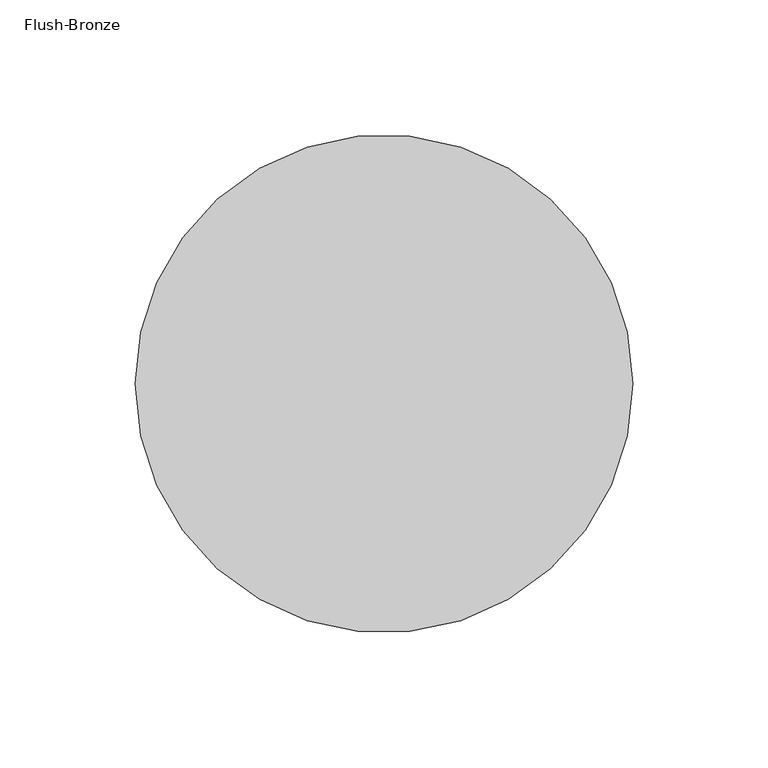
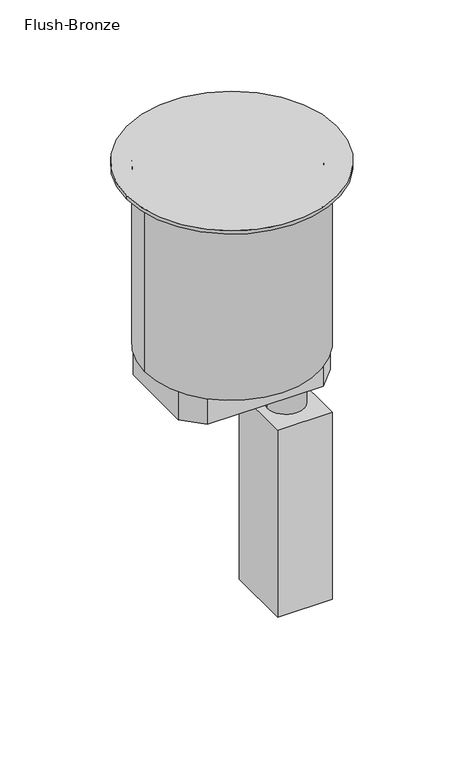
"""IFC4 building model written with IfcOpenShell, lengths in millimetres: proxy geometry, Poke_Thru-Evolution_6AT_Series-Wiremold-Prewired_Audio_Video : Flush-Bronze."""

from ifc_helpers import new_model, si_unit, point, frame, frame_2d, origin, origin_with_axes, origin_2d, place, context, project, spatial, polyline, circle_curve, trimmed, segment, composite_curve, outline, extrude, source, transform, mapped, element, save
from ifc_brep_helpers import plane_surface, cylinder_surface, revolved_surface, advanced_brep


def flush_bronze_f38398a0(model_context):
    return source(origin(), model_context, "Body", "SolidModel", [
        extrude(outline(polyline([(-21.8163935, 61.9125), (22.0523137, 61.9125), (27.78125, 56.9197167), (27.78125, -56.9197167), (22.0523137, -61.9125), (-21.8163935, -61.9125), (-27.78125, -56.9197167), (-27.78125, 56.9197167), (-21.8163935, 61.9125)])), frame((0.0, 0.0, -6.35), z_axis=(0.0, 0.0, 1.0), x_axis=(1.0, 0.0, 0.0)), (0.0, 0.0, 1.0), 3.175),
        extrude(outline(composite_curve([segment(polyline([(56.4048196, -38.1), (27.8003, -38.1), (27.8003, 38.1), (56.4048196, 38.1)]), True, "CONTINUOUS"), segment(trimmed(circle_curve(frame_2d((7.1886716, 0.0)), 62.2401737), [point((56.4048196, 38.1))], [point((56.4048196, -38.1))], False, "CARTESIAN"), True, "CONTINUOUS")], self_intersect=False)), frame((0.0, 0.0, -6.35), z_axis=(0.0, 0.0, 1.0), x_axis=(1.0, 0.0, 0.0)), (0.0, 0.0, 1.0), 3.175),
        extrude(outline(composite_curve([segment(polyline([(-56.4048196, 38.1), (-27.8003, 38.1), (-27.8003, -38.1), (-56.4048196, -38.1)]), True, "CONTINUOUS"), segment(trimmed(circle_curve(frame_2d((-7.1886716, 0.0)), 62.2401737), [point((-56.4048196, -38.1))], [point((-56.4048196, 38.1))], False, "CARTESIAN"), True, "CONTINUOUS")], self_intersect=False)), frame((0.0, 0.0, -6.35), z_axis=(0.0, 0.0, 1.0), x_axis=(1.0, 0.0, 0.0)), (0.0, 0.0, 1.0), 3.175),
        extrude(outline(composite_curve([segment(trimmed(circle_curve(origin_2d(), 92.075), [point((-92.075, 0.0))], [point((92.075, 0.0))], False, "CARTESIAN"), True, "CONTINUOUS"), segment(trimmed(circle_curve(origin_2d(), 92.075), [point((92.075, 0.0))], [point((-92.075, 0.0))], False, "CARTESIAN"), True, "CONTINUOUS")], self_intersect=False)), origin_with_axes(), (0.0, 0.0, 1.0), 3.175),
        advanced_brep(
        [(69.85, 0.0, -6.35), (-69.85, 0.0, -6.35), (-76.2, 0.0, -165.1), (76.2, 0.0, -165.1), (76.2, 0.0, -6.35), (-76.2, 0.0, -6.35), (-76.2, 0.0, 0.0), (76.2, 0.0, 0.0), (-69.85, 0.0, 0.0), (69.85, 0.0, 0.0)],
        [
            (0, 1, circle_curve(frame((0.0, 0.0, -6.35), z_axis=(0.0, 0.0, 1.0), x_axis=(1.0, 0.0, 0.0)), 69.85)),
            (1, 0, circle_curve(frame((0.0, 0.0, -6.35), z_axis=(0.0, 0.0, 1.0), x_axis=(1.0, 0.0, 0.0)), 69.85)),
            (2, 3, circle_curve(frame((0.0, 0.0, -165.1), z_axis=(0.0, 0.0, -1.0), x_axis=(1.0, 0.0, 0.0)), 76.2)),
            (3, 2, circle_curve(frame((0.0, 0.0, -165.1), z_axis=(0.0, 0.0, -1.0), x_axis=(1.0, 0.0, 0.0)), 76.2)),
            (3, 4),
            (4, 5, circle_curve(frame((0.0, 0.0, -6.35), z_axis=(0.0, 0.0, -1.0), x_axis=(1.0, 0.0, 0.0)), 76.2)),
            (5, 2),
            (5, 4, circle_curve(frame((0.0, 0.0, -6.35), z_axis=(0.0, 0.0, -1.0), x_axis=(1.0, 0.0, 0.0)), 76.2)),
            (6, 7, circle_curve(origin_with_axes(), 76.2)),
            (7, 6, circle_curve(origin_with_axes(), 76.2)),
            (8, 9, circle_curve(frame((0.0, 0.0, 0.0), z_axis=(0.0, 0.0, -1.0), x_axis=(1.0, 0.0, 0.0)), 69.85)),
            (9, 8, circle_curve(frame((0.0, 0.0, 0.0), z_axis=(0.0, 0.0, -1.0), x_axis=(1.0, 0.0, 0.0)), 69.85)),
            (6, 5),
            (4, 7),
            (8, 1),
            (0, 9),
        ],
        [
            plane_surface(frame((76.2, 0.0, -6.35), z_axis=(0.0, 0.0, 1.0), x_axis=(0.0, 1.0, 0.0))),
            plane_surface(frame((76.2, 0.0, -165.1), z_axis=(0.0, 0.0, -1.0), x_axis=(0.0, -1.0, 0.0))),
            cylinder_surface(frame((0.0, 0.0, -165.1), z_axis=(0.0, 0.0, 1.0), x_axis=(1.0, 0.0, 0.0)), 76.2),
            plane_surface(frame((76.2, 0.0, 0.0), z_axis=(0.0, 0.0, 1.0), x_axis=(0.0, 1.0, 0.0))),
            cylinder_surface(frame((0.0, 0.0, -6.35), z_axis=(0.0, 0.0, 1.0), x_axis=(1.0, 0.0, 0.0)), 76.2),
            revolved_surface(polyline([(69.85, 0.0, -6.35), (69.85, 0.0, 0.0)]), (0.0, 0.0, 0.0), (0.0, 0.0, -1.0)),
        ],
        [
            (0, [[1, 2]]),
            (1, [[3, 4]]),
            (2, [[-4, 5, 6, 7]]),
            (2, [[-3, -7, 8, -5]]),
            (3, [[9, 10], [11, 12]]),
            (4, [[-9, 13, -6, 14]]),
            (4, [[-10, -14, -8, -13]]),
            (5, [[-11, 15, -1, 16]]),
            (5, [[-12, -16, -2, -15]]),
        ],
    ),
        extrude(outline(polyline([(50.8, 50.8), (66.675, 34.036), (66.675, -34.036), (50.8, -50.8), (-50.8, -50.8), (-66.675, -34.036), (-66.675, 34.036), (-50.8, 50.8), (50.8, 50.8)])), frame((0.0, 0.0, -192.1002), z_axis=(0.0, 0.0, 1.0), x_axis=(1.0, 0.0, 0.0)), (0.0, 0.0, 1.0), 27.0002),
        extrude(outline(composite_curve([segment(trimmed(circle_curve(frame_2d((47.244, 0.0)), 11.1252), [point((36.1188, 0.0))], [point((58.3692, 0.0))], False, "CARTESIAN"), True, "CONTINUOUS"), segment(trimmed(circle_curve(frame_2d((47.244, 0.0)), 11.1252), [point((58.3692, 0.0))], [point((36.1188, 0.0))], False, "CARTESIAN"), True, "CONTINUOUS")], self_intersect=False)), frame((0.0, 0.0, -217.5002), z_axis=(0.0, 0.0, 1.0), x_axis=(1.0, 0.0, 0.0)), (0.0, 0.0, 1.0), 25.4),
        extrude(outline(composite_curve([segment(trimmed(circle_curve(frame_2d((47.244, 0.0)), 16.0528), [point((31.1912, 0.0))], [point((63.2968, 0.0))], False, "CARTESIAN"), True, "CONTINUOUS"), segment(trimmed(circle_curve(frame_2d((47.244, 0.0)), 16.0528), [point((63.2968, 0.0))], [point((31.1912, 0.0))], False, "CARTESIAN"), True, "CONTINUOUS")], self_intersect=False)), frame((0.0, 0.0, -236.5502), z_axis=(0.0, 0.0, 1.0), x_axis=(1.0, 0.0, 0.0)), (0.0, 0.0, 1.0), 19.05),
        extrude(outline(polyline([(71.0438, 28.980332), (71.0438, -29.439668), (23.4442, -29.439668), (23.4442, 28.980332), (71.0438, 28.980332)])), frame((0.0, 0.0, -409.575), z_axis=(0.0, 0.0, 1.0), x_axis=(1.0, 0.0, 0.0)), (0.0, 0.0, 1.0), 173.0248),
    ])


if __name__ == "__main__":
    model = new_model("IFC4")
    model_context = context("Model", 3, world=origin())
    ifc_project = project(units=[si_unit("LENGTHUNIT", "METRE", prefix="MILLI")], contexts=[model_context])
    site = spatial("IfcSite", under=ifc_project)
    building = spatial("IfcBuilding", under=site)
    placement = place(None, origin())
    flush_bronze_shape = flush_bronze_f38398a0(model_context)
    element("IfcBuildingElementProxy", 1, Name="Poke_Thru-Evolution_6AT_Series-Wiremold-Prewired_Audio_Video : Flush-Bronze", ObjectType="Poke_Thru-Evolution_6AT_Series-Wiremold-Prewired_Audio_Video : Flush-Bronze", at=placement, inside=building, context=model_context, shape_type="MappedRepresentation", body=[
        mapped(flush_bronze_shape, transform((0.0, 0.0, 0.0), x_axis=(1.0, 0.0, 0.0), y_axis=(0.0, 1.0, 0.0), z_axis=(0.0, 0.0, 1.0))),
    ])
    save(model, "model.ifc")
